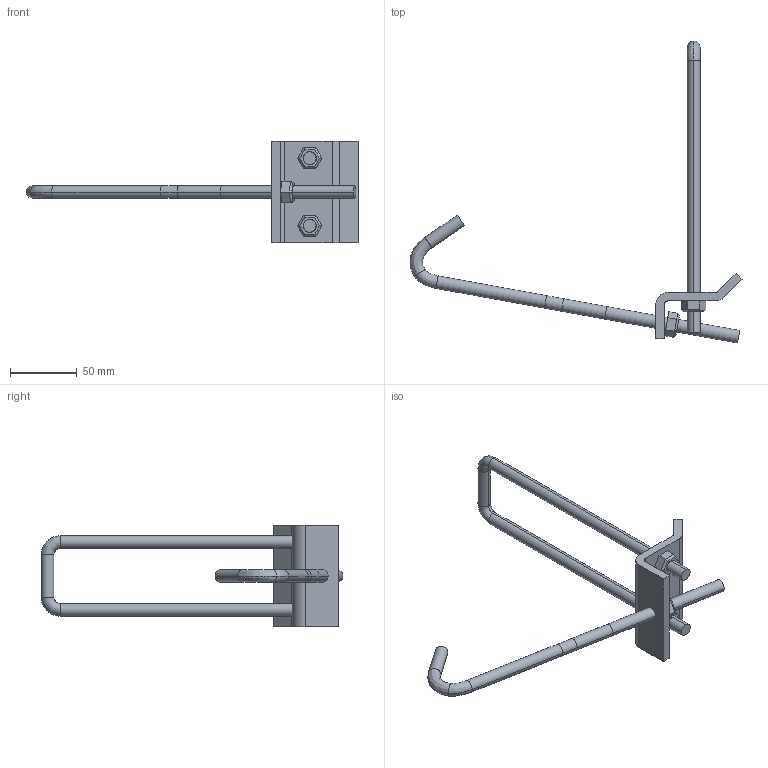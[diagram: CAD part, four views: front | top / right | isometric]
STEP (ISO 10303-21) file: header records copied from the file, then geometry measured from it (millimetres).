
FILE_DESCRIPTION(('TurboCAD Mac Pro'),'Build 980');
FILE_NAME('P2867B-9.stp',' ',(''),(''),'ACIS Interop','IMSI','TurboCAD Mac Pro BY IMSI, INCORPORATED');
FILE_SCHEMA(('automotive_design'));
Length unit declared in the file: inch
Products named in the file (6): 1; 2; 3; 4; 5; 6
Bounding box: 249.58 x 226.95 x 76.2 mm (x, y, z)
Volume: 103668.8 mm3; surface area: 42859.5 mm2
Topology: 6 solids, 6 shells, 100 faces, 226 edges, 138 vertices
Faces by surface type: plane 56, bspline 24, cylinder 20
Entity records: 5640 total; most frequent: CARTESIAN_POINT 1602, ORIENTED_EDGE 452, DIRECTION 382, STYLED_ITEM 304, PRESENTATION_STYLE_ASSIGNMENT 304, COLOUR_RGB 304, EDGE_CURVE 226, CURVE_STYLE 198
